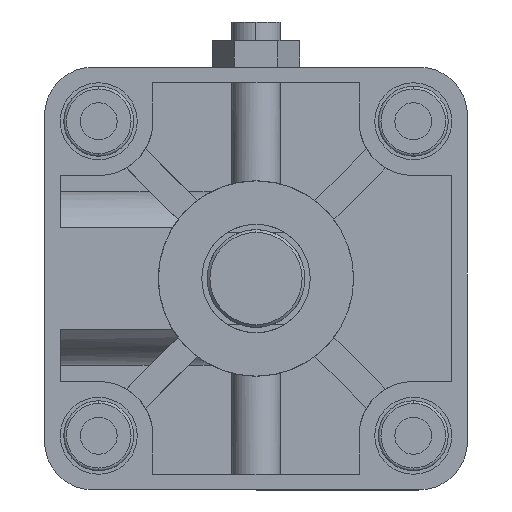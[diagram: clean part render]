
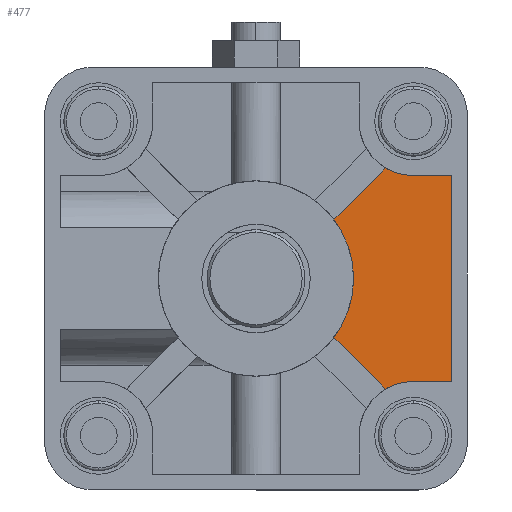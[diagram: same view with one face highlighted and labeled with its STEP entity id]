
A CAD part, left-side view. The second image highlights one B-rep face of the part: STEP entity #477.
In plain terms, the highlighted planar face has unit normal (-1, 0, 0) as drawn and (1, 0, 0) by its records, which use the part's own axes.
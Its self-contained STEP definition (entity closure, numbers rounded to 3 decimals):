
#51 = PLANE ( 'NONE',  #345 ) ;
#207 = CARTESIAN_POINT ( 'NONE',  ( -6., -14.372, -10.837 ) ) ;
#314 = AXIS2_PLACEMENT_3D ( 'NONE', #4516, #4507, #8913 ) ;
#345 = AXIS2_PLACEMENT_3D ( 'NONE', #833, #9266, #5031 ) ;
#477 = ADVANCED_FACE ( 'NONE', ( #9263 ), #51, .T. ) ;
#544 = CARTESIAN_POINT ( 'NONE',  ( -6., 0., 19. ) ) ;
#757 = VECTOR ( 'NONE', #2596, 1000. ) ;
#809 = VERTEX_POINT ( 'NONE', #7680 ) ;
#833 = CARTESIAN_POINT ( 'NONE',  ( -6., 0., 0. ) ) ;
#1031 = LINE ( 'NONE', #7933, #7790 ) ;
#1224 = CIRCLE ( 'NONE', #5653, 18. ) ;
#1281 = EDGE_CURVE ( 'NONE', #1399, #5745, #3801, .T. ) ;
#1399 = VERTEX_POINT ( 'NONE', #8462 ) ;
#1497 = DIRECTION ( 'NONE',  ( 0., 0., -1. ) ) ;
#1796 = EDGE_CURVE ( 'NONE', #8674, #809, #7173, .T. ) ;
#1812 = CARTESIAN_POINT ( 'NONE',  ( -6., -1.768, 1.768 ) ) ;
#1847 = ORIENTED_EDGE ( 'NONE', *, *, #7217, .F. ) ;
#2173 = CARTESIAN_POINT ( 'NONE',  ( -6., -36.1, 19. ) ) ;
#2234 = ORIENTED_EDGE ( 'NONE', *, *, #1796, .F. ) ;
#2419 = CARTESIAN_POINT ( 'NONE',  ( -6., -14.372, 10.837 ) ) ;
#2458 = DIRECTION ( 'NONE',  ( -1., 0., 0. ) ) ;
#2492 = ORIENTED_EDGE ( 'NONE', *, *, #5376, .F. ) ;
#2596 = DIRECTION ( 'NONE',  ( 0., -1., 0. ) ) ;
#3354 = VECTOR ( 'NONE', #8058, 1000. ) ;
#3436 = ORIENTED_EDGE ( 'NONE', *, *, #9441, .T. ) ;
#3801 = CIRCLE ( 'NONE', #314, 10. ) ;
#4049 = ORIENTED_EDGE ( 'NONE', *, *, #1281, .T. ) ;
#4114 = VERTEX_POINT ( 'NONE', #2173 ) ;
#4292 = EDGE_CURVE ( 'NONE', #4114, #6887, #1031, .T. ) ;
#4507 = DIRECTION ( 'NONE',  ( -1., 0., 0. ) ) ;
#4516 = CARTESIAN_POINT ( 'NONE',  ( -6., -29., -29. ) ) ;
#5031 = DIRECTION ( 'NONE',  ( 0., 0., -1. ) ) ;
#5155 = CARTESIAN_POINT ( 'NONE',  ( -6., -1.768, -1.768 ) ) ;
#5376 = EDGE_CURVE ( 'NONE', #9183, #5745, #5992, .T. ) ;
#5401 = ORIENTED_EDGE ( 'NONE', *, *, #4292, .T. ) ;
#5576 = CARTESIAN_POINT ( 'NONE',  ( -6., -36.1, -19. ) ) ;
#5653 = AXIS2_PLACEMENT_3D ( 'NONE', #6644, #2458, #7920 ) ;
#5687 = EDGE_LOOP ( 'NONE', ( #1847, #2234, #3436, #5401, #7376, #4049, #2492, #9473 ) ) ;
#5714 = CARTESIAN_POINT ( 'NONE',  ( -6., -29., 29. ) ) ;
#5745 = VERTEX_POINT ( 'NONE', #6147 ) ;
#5901 = LINE ( 'NONE', #5155, #6165 ) ;
#5950 = LINE ( 'NONE', #6778, #757 ) ;
#5992 = LINE ( 'NONE', #1812, #6657 ) ;
#6147 = CARTESIAN_POINT ( 'NONE',  ( -6., -23.921, -20.386 ) ) ;
#6165 = VECTOR ( 'NONE', #6565, 1000. ) ;
#6565 = DIRECTION ( 'NONE',  ( 0., 0.707, -0.707 ) ) ;
#6644 = CARTESIAN_POINT ( 'NONE',  ( -6., 0., 0. ) ) ;
#6657 = VECTOR ( 'NONE', #7285, 1000. ) ;
#6778 = CARTESIAN_POINT ( 'NONE',  ( -6., 0., -19. ) ) ;
#6791 = LINE ( 'NONE', #544, #3354 ) ;
#6887 = VERTEX_POINT ( 'NONE', #5576 ) ;
#7173 = CIRCLE ( 'NONE', #8931, 10. ) ;
#7217 = EDGE_CURVE ( 'NONE', #809, #9063, #5901, .T. ) ;
#7285 = DIRECTION ( 'NONE',  ( 0., -0.707, -0.707 ) ) ;
#7376 = ORIENTED_EDGE ( 'NONE', *, *, #9308, .F. ) ;
#7680 = CARTESIAN_POINT ( 'NONE',  ( -6., -23.921, 20.386 ) ) ;
#7790 = VECTOR ( 'NONE', #1497, 1000. ) ;
#7920 = DIRECTION ( 'NONE',  ( 0., 0., -1. ) ) ;
#7933 = CARTESIAN_POINT ( 'NONE',  ( -6., -36.1, 0. ) ) ;
#8058 = DIRECTION ( 'NONE',  ( 0., -1., 0. ) ) ;
#8134 = DIRECTION ( 'NONE',  ( 1., 0., 0. ) ) ;
#8299 = DIRECTION ( 'NONE',  ( 0., 0., -1. ) ) ;
#8462 = CARTESIAN_POINT ( 'NONE',  ( -6., -29., -19. ) ) ;
#8631 = CARTESIAN_POINT ( 'NONE',  ( -6., -29., 19. ) ) ;
#8674 = VERTEX_POINT ( 'NONE', #8631 ) ;
#8913 = DIRECTION ( 'NONE',  ( 0., 0., -1. ) ) ;
#8931 = AXIS2_PLACEMENT_3D ( 'NONE', #5714, #8134, #8299 ) ;
#9063 = VERTEX_POINT ( 'NONE', #2419 ) ;
#9183 = VERTEX_POINT ( 'NONE', #207 ) ;
#9263 = FACE_OUTER_BOUND ( 'NONE', #5687, .T. ) ;
#9266 = DIRECTION ( 'NONE',  ( 1., 0., 0. ) ) ;
#9308 = EDGE_CURVE ( 'NONE', #1399, #6887, #5950, .T. ) ;
#9441 = EDGE_CURVE ( 'NONE', #8674, #4114, #6791, .T. ) ;
#9473 = ORIENTED_EDGE ( 'NONE', *, *, #9600, .T. ) ;
#9600 = EDGE_CURVE ( 'NONE', #9183, #9063, #1224, .T. ) ;
